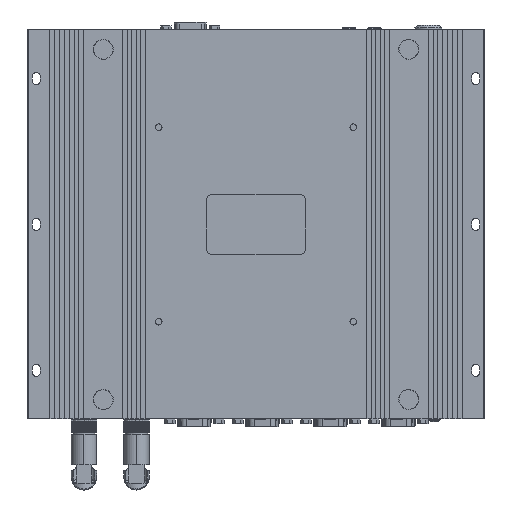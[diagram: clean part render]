
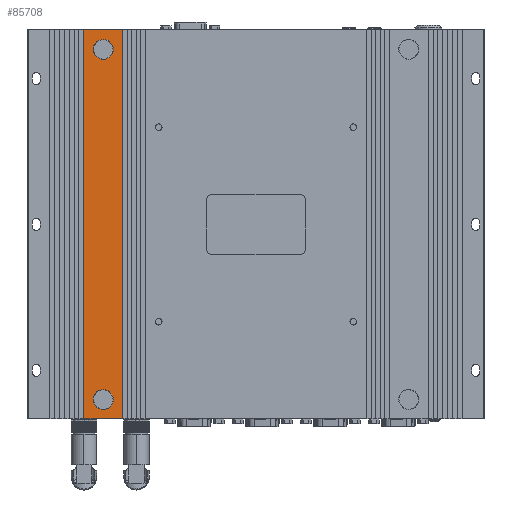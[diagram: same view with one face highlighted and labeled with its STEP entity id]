
A CAD part, front view. The second image highlights one B-rep face of the part: STEP entity #85708.
In plain terms, the highlighted planar face has unit normal (0, -1, 0).
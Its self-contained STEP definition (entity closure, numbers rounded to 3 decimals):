
#578 = EDGE_CURVE ( 'NONE', #92500, #39333, #77681, .T. ) ;
#2150 = DIRECTION ( 'NONE',  ( 0., -1., 0. ) ) ;
#2718 = EDGE_CURVE ( 'NONE', #44991, #87447, #91779, .T. ) ;
#3588 = FACE_BOUND ( 'NONE', #108605, .T. ) ;
#4736 = FACE_BOUND ( 'NONE', #95352, .T. ) ;
#5238 = CARTESIAN_POINT ( 'NONE',  ( -78.5, 0., -84.9 ) ) ;
#7417 = CARTESIAN_POINT ( 'NONE',  ( -68.5, 0., 100. ) ) ;
#8519 = DIRECTION ( 'NONE',  ( 0., 0., -1. ) ) ;
#9239 = CIRCLE ( 'NONE', #70392, 5.1 ) ;
#9715 = CIRCLE ( 'NONE', #37568, 5.1 ) ;
#12183 = DIRECTION ( 'NONE',  ( 0., -1., 0. ) ) ;
#12606 = CARTESIAN_POINT ( 'NONE',  ( -88.5, 0., 100. ) ) ;
#14832 = VERTEX_POINT ( 'NONE', #97846 ) ;
#19343 = EDGE_CURVE ( 'NONE', #14832, #23498, #44705, .T. ) ;
#23157 = CARTESIAN_POINT ( 'NONE',  ( -68.5, 0., -162.008 ) ) ;
#23498 = VERTEX_POINT ( 'NONE', #40119 ) ;
#24308 = DIRECTION ( 'NONE',  ( 0., 0., 1. ) ) ;
#24820 = VERTEX_POINT ( 'NONE', #28428 ) ;
#25030 = VERTEX_POINT ( 'NONE', #7417 ) ;
#27691 = VECTOR ( 'NONE', #83061, 1000. ) ;
#28428 = CARTESIAN_POINT ( 'NONE',  ( -68.5, 0., -100. ) ) ;
#31467 = CARTESIAN_POINT ( 'NONE',  ( -70.5, 0., -162.008 ) ) ;
#37568 = AXIS2_PLACEMENT_3D ( 'NONE', #88068, #51499, #8519 ) ;
#38519 = EDGE_CURVE ( 'NONE', #24820, #25030, #95717, .T. ) ;
#39333 = VERTEX_POINT ( 'NONE', #58227 ) ;
#39682 = LINE ( 'NONE', #93664, #80451 ) ;
#40119 = CARTESIAN_POINT ( 'NONE',  ( -78.5, 0., 95.1 ) ) ;
#40454 = EDGE_CURVE ( 'NONE', #44991, #24820, #39682, .T. ) ;
#44705 = CIRCLE ( 'NONE', #55785, 5.1 ) ;
#44991 = VERTEX_POINT ( 'NONE', #58513 ) ;
#47749 = PLANE ( 'NONE',  #90645 ) ;
#51499 = DIRECTION ( 'NONE',  ( 0., -1., 0. ) ) ;
#55785 = AXIS2_PLACEMENT_3D ( 'NONE', #87166, #103458, #105761 ) ;
#58227 = CARTESIAN_POINT ( 'NONE',  ( -78.5, 0., -95.1 ) ) ;
#58513 = CARTESIAN_POINT ( 'NONE',  ( -88.5, 0., -100. ) ) ;
#60695 = LINE ( 'NONE', #102559, #110589 ) ;
#61691 = ORIENTED_EDGE ( 'NONE', *, *, #19343, .F. ) ;
#70392 = AXIS2_PLACEMENT_3D ( 'NONE', #82471, #12183, #81905 ) ;
#70484 = ORIENTED_EDGE ( 'NONE', *, *, #578, .F. ) ;
#73005 = CARTESIAN_POINT ( 'NONE',  ( -78.5, 0., -90. ) ) ;
#74145 = DIRECTION ( 'NONE',  ( 0., 0., -1. ) ) ;
#74437 = DIRECTION ( 'NONE',  ( 0., 0., -1. ) ) ;
#76692 = ORIENTED_EDGE ( 'NONE', *, *, #38519, .T. ) ;
#76963 = DIRECTION ( 'NONE',  ( 1., 0., 0. ) ) ;
#77681 = CIRCLE ( 'NONE', #92544, 5.1 ) ;
#80451 = VECTOR ( 'NONE', #110568, 1000. ) ;
#81905 = DIRECTION ( 'NONE',  ( 0., 0., -1. ) ) ;
#82471 = CARTESIAN_POINT ( 'NONE',  ( -78.5, 0., 90. ) ) ;
#82639 = EDGE_CURVE ( 'NONE', #87447, #25030, #60695, .T. ) ;
#83061 = DIRECTION ( 'NONE',  ( 0., 0., 1. ) ) ;
#83165 = DIRECTION ( 'NONE',  ( 0., -1., 0. ) ) ;
#83641 = CARTESIAN_POINT ( 'NONE',  ( -88.5, 0., -162.008 ) ) ;
#85708 = ADVANCED_FACE ( 'NONE', ( #4736, #3588, #111067 ), #47749, .T. ) ;
#87166 = CARTESIAN_POINT ( 'NONE',  ( -78.5, 0., 90. ) ) ;
#87447 = VERTEX_POINT ( 'NONE', #12606 ) ;
#88068 = CARTESIAN_POINT ( 'NONE',  ( -78.5, 0., -90. ) ) ;
#90645 = AXIS2_PLACEMENT_3D ( 'NONE', #31467, #83165, #74437 ) ;
#91276 = ORIENTED_EDGE ( 'NONE', *, *, #40454, .T. ) ;
#91779 = LINE ( 'NONE', #83641, #27691 ) ;
#92161 = ORIENTED_EDGE ( 'NONE', *, *, #82639, .F. ) ;
#92500 = VERTEX_POINT ( 'NONE', #5238 ) ;
#92544 = AXIS2_PLACEMENT_3D ( 'NONE', #73005, #2150, #74145 ) ;
#93664 = CARTESIAN_POINT ( 'NONE',  ( -70.5, 0., -100. ) ) ;
#94433 = ORIENTED_EDGE ( 'NONE', *, *, #106711, .F. ) ;
#95352 = EDGE_LOOP ( 'NONE', ( #113840, #70484 ) ) ;
#95717 = LINE ( 'NONE', #23157, #100535 ) ;
#97846 = CARTESIAN_POINT ( 'NONE',  ( -78.5, 0., 84.9 ) ) ;
#100535 = VECTOR ( 'NONE', #24308, 1000. ) ;
#101237 = EDGE_LOOP ( 'NONE', ( #76692, #92161, #105616, #91276 ) ) ;
#102559 = CARTESIAN_POINT ( 'NONE',  ( -88.5, 0., 100. ) ) ;
#103458 = DIRECTION ( 'NONE',  ( 0., -1., 0. ) ) ;
#105616 = ORIENTED_EDGE ( 'NONE', *, *, #2718, .F. ) ;
#105761 = DIRECTION ( 'NONE',  ( 0., 0., -1. ) ) ;
#106711 = EDGE_CURVE ( 'NONE', #23498, #14832, #9239, .T. ) ;
#108605 = EDGE_LOOP ( 'NONE', ( #61691, #94433 ) ) ;
#109902 = EDGE_CURVE ( 'NONE', #39333, #92500, #9715, .T. ) ;
#110568 = DIRECTION ( 'NONE',  ( 1., 0., 0. ) ) ;
#110589 = VECTOR ( 'NONE', #76963, 1000. ) ;
#111067 = FACE_OUTER_BOUND ( 'NONE', #101237, .T. ) ;
#113840 = ORIENTED_EDGE ( 'NONE', *, *, #109902, .F. ) ;
